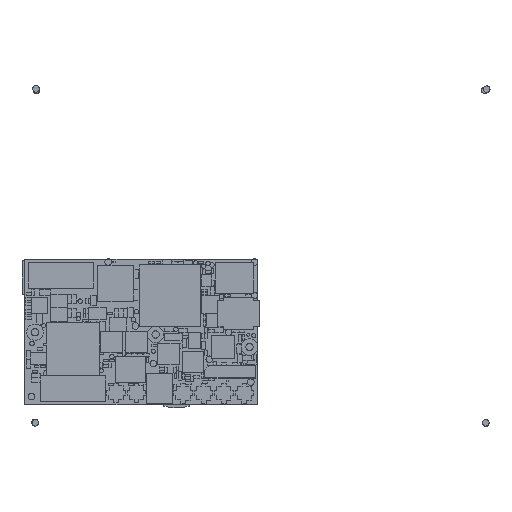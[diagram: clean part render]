
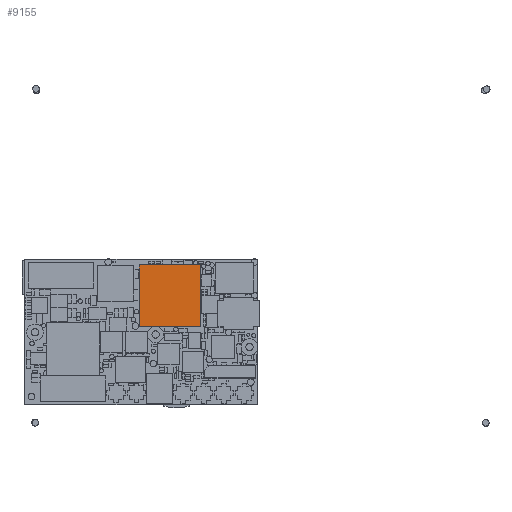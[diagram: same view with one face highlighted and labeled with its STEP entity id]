
A CAD part, top view. The second image highlights one B-rep face of the part: STEP entity #9155.
In plain terms, the highlighted planar face has unit normal (0, 0, 1).
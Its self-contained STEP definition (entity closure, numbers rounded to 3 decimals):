
#5627=FACE_OUTER_BOUND($,#6110,.F.);
#6110=EDGE_LOOP($,(#10300,#10301,#10302,#10303));
#6701=AXIS2_PLACEMENT_3D($,#19786,#16345,$);
#8720=PLANE($,#6701);
#9155=ADVANCED_FACE($,(#5627),#8720,.T.);
#10300=ORIENTED_EDGE($,*,*,#11820,.T.);
#10301=ORIENTED_EDGE($,*,*,#11821,.T.);
#10302=ORIENTED_EDGE($,*,*,#11822,.T.);
#10303=ORIENTED_EDGE($,*,*,#11823,.T.);
#11820=EDGE_CURVE($,#14654,#14655,#13728,.T.);
#11821=EDGE_CURVE($,#14655,#14656,#13729,.T.);
#11822=EDGE_CURVE($,#14656,#14657,#13730,.T.);
#11823=EDGE_CURVE($,#14657,#14654,#13731,.T.);
#12780=VECTOR($,#16928,21.);
#12781=VECTOR($,#16929,21.);
#12782=VECTOR($,#16930,21.);
#12783=VECTOR($,#16931,21.);
#13728=LINE($,#19785,#12780);
#13729=LINE($,#19786,#12781);
#13730=LINE($,#19787,#12782);
#13731=LINE($,#19788,#12783);
#14654=VERTEX_POINT($,#19785);
#14655=VERTEX_POINT($,#19786);
#14656=VERTEX_POINT($,#19787);
#14657=VERTEX_POINT($,#19788);
#16345=DIRECTION($,(0.,0.,1.));
#16928=DIRECTION($,(0.,1.,0.));
#16929=DIRECTION($,(1.,0.,0.));
#16930=DIRECTION($,(0.,-1.,0.));
#16931=DIRECTION($,(-1.,0.,0.));
#19785=CARTESIAN_POINT('',(-10.5,-10.5,1.6));
#19786=CARTESIAN_POINT('',(-10.5,10.5,1.6));
#19787=CARTESIAN_POINT('',(10.5,10.5,1.6));
#19788=CARTESIAN_POINT('',(10.5,-10.5,1.6));
